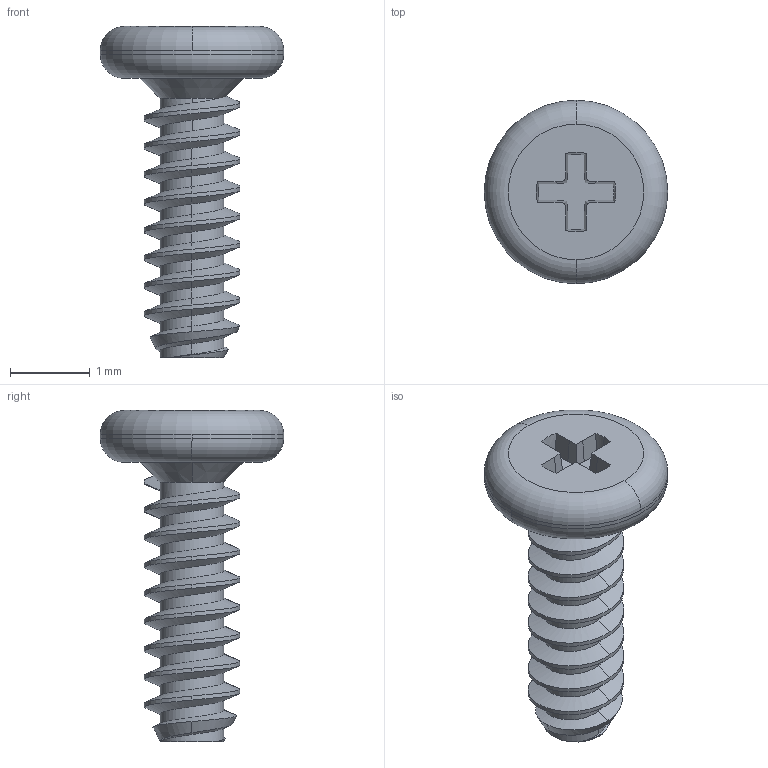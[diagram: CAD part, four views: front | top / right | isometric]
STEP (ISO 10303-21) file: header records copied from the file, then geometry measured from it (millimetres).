
FILE_DESCRIPTION (( 'STEP AP203' ), '1' );
FILE_NAME ('M12-35-P-N-P-USMICROSCREW.STEP', '2014-12-29T22:52:53', ( '' ), ( '' ), 'SwSTEP 2.0', 'SolidWorks 2014', '' );
FILE_SCHEMA (( 'CONFIG_CONTROL_DESIGN' ));
Length unit declared in the file: millimetre
Products named in the file (1): M12-35-P-N-P-USMICROSCREW
Bounding box: 2.3 x 2.3 x 4.15 mm (x, y, z)
Volume: 4.9 mm3; surface area: 29.5 mm2
Topology: 1 solids, 1 shells, 94 faces, 248 edges, 158 vertices
Faces by surface type: cylinder 39, plane 21, bspline 19, cone 11, torus 4
Entity records: 4051 total; most frequent: CARTESIAN_POINT 2000, ORIENTED_EDGE 496, DIRECTION 327, EDGE_CURVE 248, VERTEX_POINT 158, AXIS2_PLACEMENT_3D 109, VECTOR 109, LINE 109
